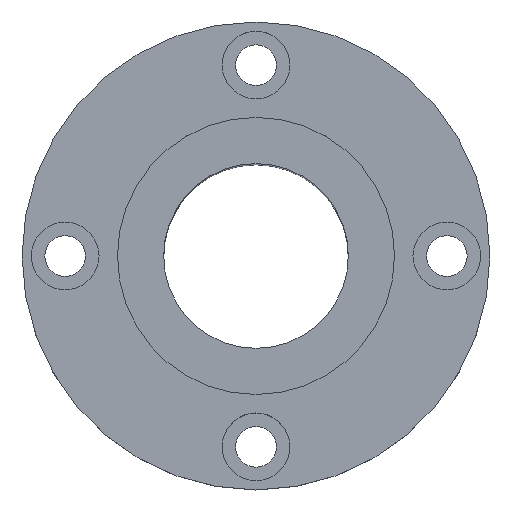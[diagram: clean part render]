
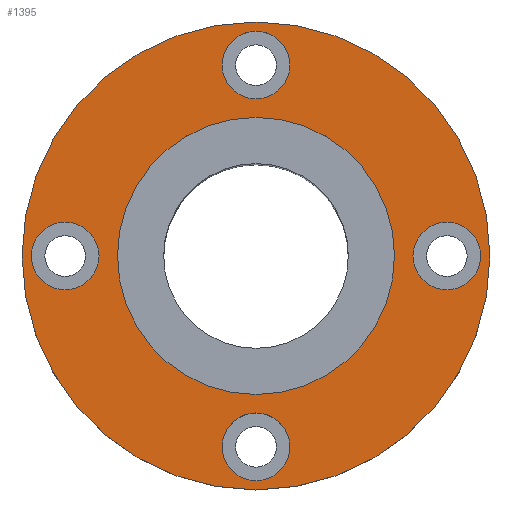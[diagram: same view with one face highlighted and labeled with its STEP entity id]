
A CAD part, top view. The second image highlights one B-rep face of the part: STEP entity #1395.
In plain terms, the highlighted planar face has unit normal (0, 0, 1).
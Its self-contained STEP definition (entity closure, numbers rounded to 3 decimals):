
#133=CARTESIAN_POINT('',(-22.5,0.,61.5));
#134=VERTEX_POINT('',#133);
#143=CARTESIAN_POINT('',(22.5,0.,61.5));
#144=VERTEX_POINT('',#143);
#145=CARTESIAN_POINT('',(0.0,0.0,61.5));
#146=DIRECTION('',(0.0,0.0,-1.0));
#147=DIRECTION('',(-1.0,0.0,0.0));
#148=AXIS2_PLACEMENT_3D('',#145,#146,#147);
#149=CIRCLE('',#148,22.5);
#150=EDGE_CURVE('',#144,#134,#149,.T.);
#217=CARTESIAN_POINT('',(-38.0,0.,61.5));
#218=VERTEX_POINT('',#217);
#227=CARTESIAN_POINT('',(38.0,0.,61.5));
#228=VERTEX_POINT('',#227);
#229=CARTESIAN_POINT('',(0.0,0.0,61.5));
#230=DIRECTION('',(0.0,0.0,-1.0));
#231=DIRECTION('',(-1.0,0.0,0.0));
#232=AXIS2_PLACEMENT_3D('',#229,#230,#231);
#233=CIRCLE('',#232,38.0);
#234=EDGE_CURVE('',#218,#228,#233,.T.);
#345=CARTESIAN_POINT('',(36.5,0.0,61.5));
#346=VERTEX_POINT('',#345);
#362=CARTESIAN_POINT('',(25.5,0.,61.5));
#363=VERTEX_POINT('',#362);
#370=CARTESIAN_POINT('',(31.0,0.0,61.5));
#371=DIRECTION('',(0.0,0.0,-1.0));
#372=DIRECTION('',(1.0,0.0,0.0));
#373=AXIS2_PLACEMENT_3D('',#370,#371,#372);
#374=CIRCLE('',#373,5.5);
#375=EDGE_CURVE('',#346,#363,#374,.T.);
#471=CARTESIAN_POINT('',(0.,36.5,61.5));
#472=VERTEX_POINT('',#471);
#488=CARTESIAN_POINT('',(0.,25.5,61.5));
#489=VERTEX_POINT('',#488);
#496=CARTESIAN_POINT('',(0.,31.0,61.5));
#497=DIRECTION('',(0.0,0.0,-1.0));
#498=DIRECTION('',(0.0,1.0,0.0));
#499=AXIS2_PLACEMENT_3D('',#496,#497,#498);
#500=CIRCLE('',#499,5.5);
#501=EDGE_CURVE('',#472,#489,#500,.T.);
#597=CARTESIAN_POINT('',(-36.5,0.,61.5));
#598=VERTEX_POINT('',#597);
#614=CARTESIAN_POINT('',(-25.5,0.,61.5));
#615=VERTEX_POINT('',#614);
#622=CARTESIAN_POINT('',(-31.0,0.,61.5));
#623=DIRECTION('',(0.0,0.0,-1.0));
#624=DIRECTION('',(-1.0,0.0,0.0));
#625=AXIS2_PLACEMENT_3D('',#622,#623,#624);
#626=CIRCLE('',#625,5.5);
#627=EDGE_CURVE('',#598,#615,#626,.T.);
#723=CARTESIAN_POINT('',(0.,-36.5,61.5));
#724=VERTEX_POINT('',#723);
#740=CARTESIAN_POINT('',(0.,-25.5,61.5));
#741=VERTEX_POINT('',#740);
#748=CARTESIAN_POINT('',(0.,-31.0,61.5));
#749=DIRECTION('',(0.0,0.0,-1.0));
#750=DIRECTION('',(0.0,-1.0,0.0));
#751=AXIS2_PLACEMENT_3D('',#748,#749,#750);
#752=CIRCLE('',#751,5.5);
#753=EDGE_CURVE('',#724,#741,#752,.T.);
#811=CARTESIAN_POINT('',(0.,-31.0,61.5));
#812=DIRECTION('',(0.0,0.0,-1.0));
#813=DIRECTION('',(0.0,-1.0,0.0));
#814=AXIS2_PLACEMENT_3D('',#811,#812,#813);
#815=CIRCLE('',#814,5.5);
#816=EDGE_CURVE('',#741,#724,#815,.T.);
#915=CARTESIAN_POINT('',(-31.0,0.,61.5));
#916=DIRECTION('',(0.0,0.0,-1.0));
#917=DIRECTION('',(-1.0,0.0,0.0));
#918=AXIS2_PLACEMENT_3D('',#915,#916,#917);
#919=CIRCLE('',#918,5.5);
#920=EDGE_CURVE('',#615,#598,#919,.T.);
#1019=CARTESIAN_POINT('',(0.,31.0,61.5));
#1020=DIRECTION('',(0.0,0.0,-1.0));
#1021=DIRECTION('',(0.0,1.0,0.0));
#1022=AXIS2_PLACEMENT_3D('',#1019,#1020,#1021);
#1023=CIRCLE('',#1022,5.5);
#1024=EDGE_CURVE('',#489,#472,#1023,.T.);
#1123=CARTESIAN_POINT('',(31.0,0.0,61.5));
#1124=DIRECTION('',(0.0,0.0,-1.0));
#1125=DIRECTION('',(1.0,0.0,0.0));
#1126=AXIS2_PLACEMENT_3D('',#1123,#1124,#1125);
#1127=CIRCLE('',#1126,5.5);
#1128=EDGE_CURVE('',#363,#346,#1127,.T.);
#1188=CARTESIAN_POINT('',(0.0,0.0,61.5));
#1189=DIRECTION('',(0.0,0.0,-1.0));
#1190=DIRECTION('',(-1.0,0.0,0.0));
#1191=AXIS2_PLACEMENT_3D('',#1188,#1189,#1190);
#1192=CIRCLE('',#1191,38.0);
#1193=EDGE_CURVE('',#228,#218,#1192,.T.);
#1306=CARTESIAN_POINT('',(0.0,0.0,61.5));
#1307=DIRECTION('',(0.0,0.0,-1.0));
#1308=DIRECTION('',(-1.0,0.0,0.0));
#1309=AXIS2_PLACEMENT_3D('',#1306,#1307,#1308);
#1310=CIRCLE('',#1309,22.5);
#1311=EDGE_CURVE('',#134,#144,#1310,.T.);
#1366=CARTESIAN_POINT('',(0.0,0.0,61.5));
#1367=DIRECTION('',(0.0,0.0,-1.0));
#1368=DIRECTION('',(-1.0,0.0,0.0));
#1369=AXIS2_PLACEMENT_3D('',#1366,#1367,#1368);
#1370=PLANE('',#1369);
#1371=ORIENTED_EDGE('',*,*,#1193,.F.);
#1372=ORIENTED_EDGE('',*,*,#234,.F.);
#1373=EDGE_LOOP('',(#1371,#1372));
#1374=FACE_OUTER_BOUND('',#1373,.T.);
#1375=ORIENTED_EDGE('',*,*,#753,.T.);
#1376=ORIENTED_EDGE('',*,*,#816,.T.);
#1377=EDGE_LOOP('',(#1375,#1376));
#1378=FACE_BOUND('',#1377,.T.);
#1379=ORIENTED_EDGE('',*,*,#627,.T.);
#1380=ORIENTED_EDGE('',*,*,#920,.T.);
#1381=EDGE_LOOP('',(#1379,#1380));
#1382=FACE_BOUND('',#1381,.T.);
#1383=ORIENTED_EDGE('',*,*,#501,.T.);
#1384=ORIENTED_EDGE('',*,*,#1024,.T.);
#1385=EDGE_LOOP('',(#1383,#1384));
#1386=FACE_BOUND('',#1385,.T.);
#1387=ORIENTED_EDGE('',*,*,#375,.T.);
#1388=ORIENTED_EDGE('',*,*,#1128,.T.);
#1389=EDGE_LOOP('',(#1387,#1388));
#1390=FACE_BOUND('',#1389,.T.);
#1391=ORIENTED_EDGE('',*,*,#150,.T.);
#1392=ORIENTED_EDGE('',*,*,#1311,.T.);
#1393=EDGE_LOOP('',(#1391,#1392));
#1394=FACE_BOUND('',#1393,.T.);
#1395=ADVANCED_FACE('',(#1374,#1378,#1382,#1386,#1390,#1394),#1370,.F.);
